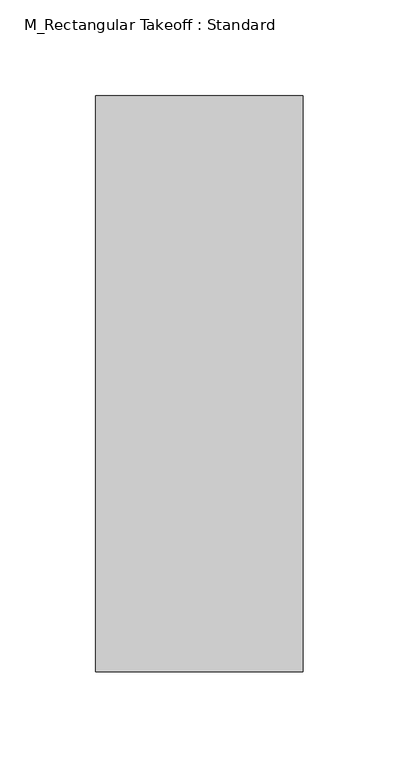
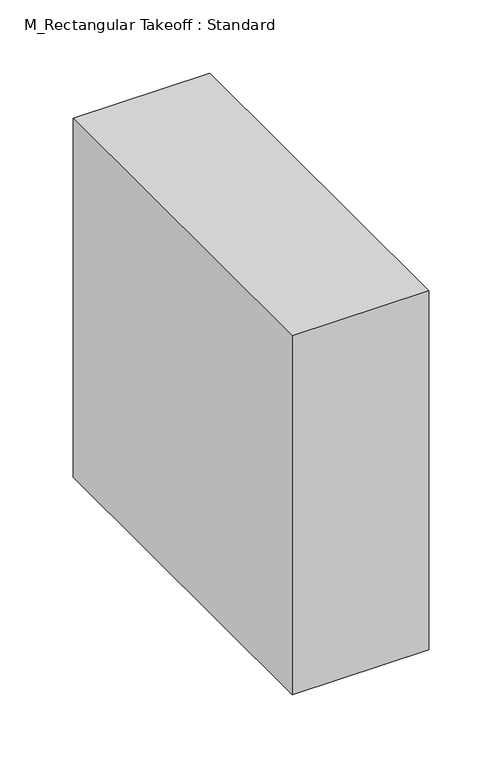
"""IFC4 building model written with IfcOpenShell, lengths in millimetres: duct fitting geometry, M_Rectangular Takeoff : Standard."""

from ifc_helpers import new_model, si_unit, frame, origin, place, context, project, spatial, polyline, outline, extrude, source, transform, mapped, element, save


def m_rectangular_takeoff_standard_ef79a8fe(model_context):
    return source(origin(), model_context, "Body", "SweptSolid", [
        extrude(outline(polyline([(-6.096, 150.0), (101.8597958, 150.0), (101.8597958, -150.0), (-6.096, -150.0), (-6.096, 150.0)])), frame((0.0, 0.0, -150.0), z_axis=(0.0, 0.0, 1.0), x_axis=(1.0, 0.0, 0.0)), (0.0, 0.0, 1.0), 300.0),
        extrude(outline(polyline([(-6.096, 150.0), (101.8597958, 150.0), (101.8597958, -150.0), (-6.096, -150.0), (-6.096, 150.0)])), frame((0.0, 0.0, -150.0), z_axis=(0.0, 0.0, 1.0), x_axis=(1.0, 0.0, 0.0)), (0.0, 0.0, 1.0), 300.0),
        extrude(outline(polyline([(-6.096, 150.0), (101.8597958, 150.0), (101.8597958, -150.0), (-6.096, -150.0), (-6.096, 150.0)])), frame((0.0, 0.0, -150.0), z_axis=(0.0, 0.0, 1.0), x_axis=(1.0, 0.0, 0.0)), (0.0, 0.0, 1.0), 300.0),
    ])


if __name__ == "__main__":
    model = new_model("IFC4")
    model_context = context("Model", 3, world=origin())
    ifc_project = project(units=[si_unit("LENGTHUNIT", "METRE", prefix="MILLI")], contexts=[model_context])
    site = spatial("IfcSite", under=ifc_project)
    building = spatial("IfcBuilding", under=site)
    placement = place(None, origin())
    m_rectangular_takeoff_standard_shape = m_rectangular_takeoff_standard_ef79a8fe(model_context)
    element("IfcDuctFitting", 1, ObjectType="M_Rectangular Takeoff : Standard", at=placement, inside=building, context=model_context, shape_type="MappedRepresentation", body=[
        mapped(m_rectangular_takeoff_standard_shape, transform((0.0, 0.0, 0.0), x_axis=(1.0, 0.0, 0.0), y_axis=(0.0, 1.0, 0.0), z_axis=(0.0, 0.0, 1.0))),
    ])
    save(model, "model.ifc")
